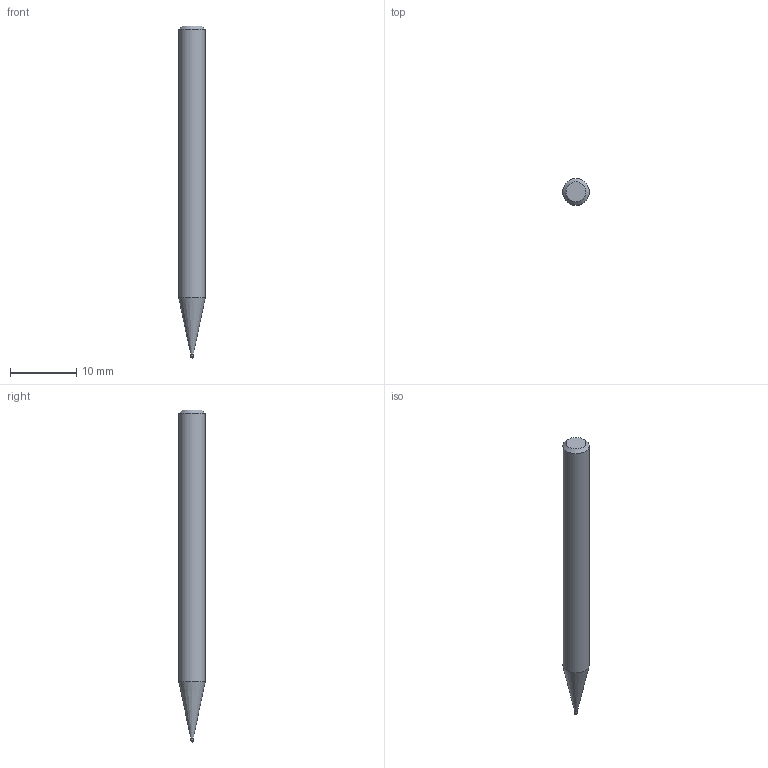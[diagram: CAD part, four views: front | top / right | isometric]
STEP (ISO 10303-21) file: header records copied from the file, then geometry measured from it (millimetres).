
FILE_DESCRIPTION((''),'2;1');
FILE_NAME('C:\Users\nsx150\AppData\Local\Temp\Mastercam 2021\98T1Q6BTT1\TEMP.step','2021-10-21T14:55:17',(''),(''),'STEP Write','Mastercam 2021 ... CNC Software, Inc.','');
FILE_SCHEMA(('AUTOMOTIVE_DESIGN'));
Length unit declared in the file: millimetre
Products named in the file (1): None
Bounding box: 4 x 4 x 50 mm (x, y, z)
Volume: 552.4 mm3; surface area: 583.8 mm2
Topology: 2 solids, 2 shells, 8 faces, 12 edges, 7 vertices
Faces by surface type: plane 3, cylinder 2, cone 2, sphere 1
Full cylindrical faces by diameter (mm): 0.4 x1, 4 x1
Entity records: 190 total; most frequent: DIRECTION 32, CARTESIAN_POINT 22, AXIS2_PLACEMENT_3D 16, ORIENTED_EDGE 12, EDGE_LOOP 12, STYLED_ITEM 11, ADVANCED_FACE 8, VERTEX_POINT 6
